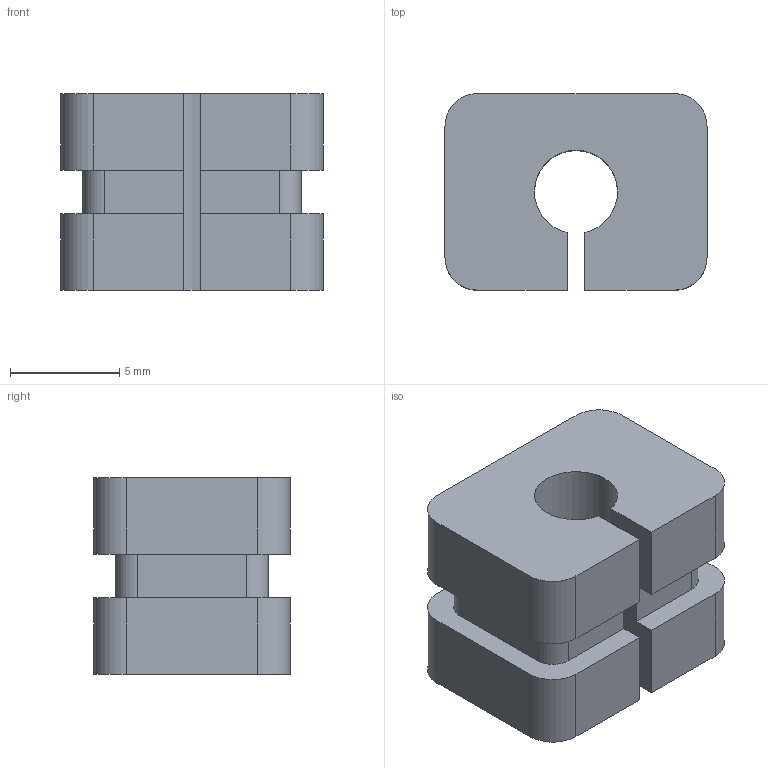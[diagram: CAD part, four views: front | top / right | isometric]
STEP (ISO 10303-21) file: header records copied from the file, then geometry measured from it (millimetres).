
FILE_DESCRIPTION(('Open CASCADE Model'),'2;1');
FILE_NAME('Open CASCADE Shape Model','2026-10-01T00:48:59',('Author'),( 'Open CASCADE'),'Open CASCADE STEP processor 7.9','Open CASCADE 7.9' ,'Unknown');
FILE_SCHEMA(('AUTOMOTIVE_DESIGN { 1 0 10303 214 1 1 1 1 }'));
Length unit declared in the file: millimetre
Products named in the file (1): Open CASCADE STEP translator 7.9 1
Bounding box: 12 x 9 x 9 mm (x, y, z)
Volume: 761.5 mm3; surface area: 734.6 mm2
Topology: 1 solids, 1 shells, 34 faces, 96 edges, 64 vertices
Faces by surface type: plane 21, cylinder 13
Entity records: 2307 total; most frequent: CARTESIAN_POINT 489, DIRECTION 307, ORIENTED_EDGE 192, PCURVE 192, DEFINITIONAL_REPRESENTATION 192, LINE 164, VECTOR 164, EDGE_CURVE 96
